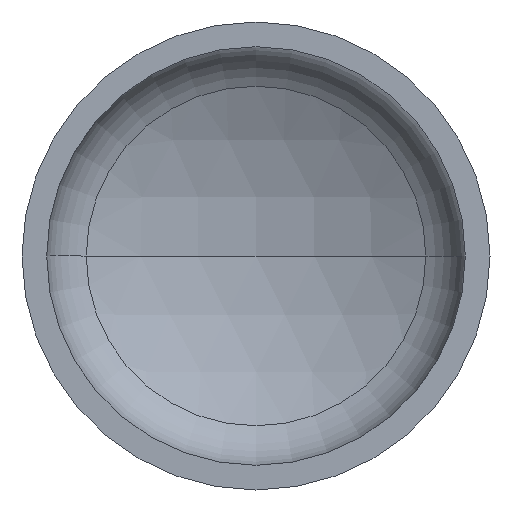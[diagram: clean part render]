
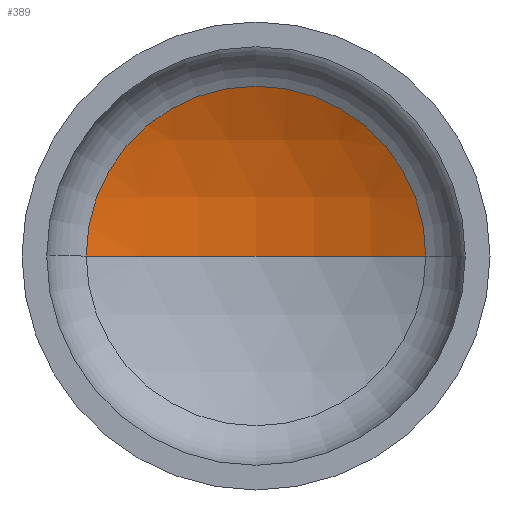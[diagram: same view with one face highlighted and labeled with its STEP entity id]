
A CAD part, front view. The second image highlights one B-rep face of the part: STEP entity #389.
In plain terms, the highlighted spherical face has radius 880 mm.
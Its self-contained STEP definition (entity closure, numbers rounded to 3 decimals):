
#6 = DIRECTION ( 'NONE',  ( 0., 0., -1. ) ) ;
#14 = CARTESIAN_POINT ( 'NONE',  ( 0., -512.784, 0. ) ) ;
#19 = AXIS2_PLACEMENT_3D ( 'NONE', #14, #6, #246 ) ;
#21 = AXIS2_PLACEMENT_3D ( 'NONE', #109, #400, #157 ) ;
#26 = AXIS2_PLACEMENT_3D ( 'NONE', #151, #153, #170 ) ;
#39 = CIRCLE ( 'NONE', #19, 880. ) ;
#61 = SPHERICAL_SURFACE ( 'NONE', #132, 880. ) ;
#83 = EDGE_CURVE ( 'NONE', #329, #111, #365, .T. ) ;
#97 = ORIENTED_EDGE ( 'NONE', *, *, #118, .F. ) ;
#100 = EDGE_CURVE ( 'NONE', #252, #329, #39, .T. ) ;
#109 = CARTESIAN_POINT ( 'NONE',  ( 0., -512.784, 0. ) ) ;
#111 = VERTEX_POINT ( 'NONE', #175 ) ;
#118 = EDGE_CURVE ( 'NONE', #252, #111, #141, .T. ) ;
#125 = CARTESIAN_POINT ( 'NONE',  ( 399.099, 271.512, 0. ) ) ;
#132 = AXIS2_PLACEMENT_3D ( 'NONE', #367, #164, #280 ) ;
#138 = CARTESIAN_POINT ( 'NONE',  ( 0., 367.216, 0. ) ) ;
#141 = CIRCLE ( 'NONE', #21, 880. ) ;
#151 = CARTESIAN_POINT ( 'NONE',  ( 0., 271.512, 0. ) ) ;
#153 = DIRECTION ( 'NONE',  ( 0., -1., 0. ) ) ;
#157 = DIRECTION ( 'NONE',  ( 1., 0., 0. ) ) ;
#164 = DIRECTION ( 'NONE',  ( 0., 0., -1. ) ) ;
#170 = DIRECTION ( 'NONE',  ( 1., 0., 0. ) ) ;
#175 = CARTESIAN_POINT ( 'NONE',  ( -399.099, 271.512, 0. ) ) ;
#246 = DIRECTION ( 'NONE',  ( -1., 0., 0. ) ) ;
#252 = VERTEX_POINT ( 'NONE', #138 ) ;
#280 = DIRECTION ( 'NONE',  ( -1., 0., 0. ) ) ;
#301 = FACE_OUTER_BOUND ( 'NONE', #407, .T. ) ;
#329 = VERTEX_POINT ( 'NONE', #125 ) ;
#351 = ORIENTED_EDGE ( 'NONE', *, *, #100, .T. ) ;
#365 = CIRCLE ( 'NONE', #26, 399.099 ) ;
#367 = CARTESIAN_POINT ( 'NONE',  ( 0., -512.784, 0. ) ) ;
#389 = ADVANCED_FACE ( 'NONE', ( #301 ), #61, .F. ) ;
#400 = DIRECTION ( 'NONE',  ( 0., 0., 1. ) ) ;
#407 = EDGE_LOOP ( 'NONE', ( #97, #351, #409 ) ) ;
#409 = ORIENTED_EDGE ( 'NONE', *, *, #83, .T. ) ;
